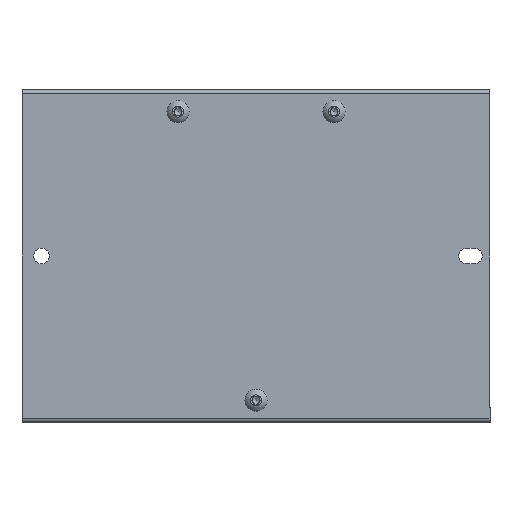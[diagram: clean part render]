
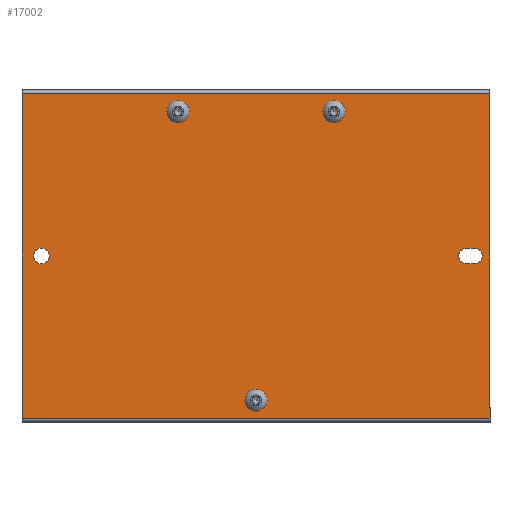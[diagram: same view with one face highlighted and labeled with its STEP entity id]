
A CAD part, front view. The second image highlights one B-rep face of the part: STEP entity #17002.
In plain terms, the highlighted planar face has unit normal (0, -1, 0).
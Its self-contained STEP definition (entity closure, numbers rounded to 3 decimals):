
#1311 = CARTESIAN_POINT ( 'NONE',  ( 360., -6.2, -25.9 ) ) ;
#1314 = CARTESIAN_POINT ( 'NONE',  ( 354., -6.2, -69.5 ) ) ;
#1532 = CARTESIAN_POINT ( 'NONE',  ( 356., -6.2, -65.5 ) ) ;
#1540 = CARTESIAN_POINT ( 'NONE',  ( 356., -6.2, -69.5 ) ) ;
#1551 = CARTESIAN_POINT ( 'NONE',  ( 360., -6.2, -109.1 ) ) ;
#1566 = CARTESIAN_POINT ( 'NONE',  ( 240., -6.2, -109.1 ) ) ;
#7375 = VERTEX_POINT ( 'NONE', #7378 ) ;
#7378 = CARTESIAN_POINT ( 'NONE',  ( 318.4, -6.2, -30.5 ) ) ;
#7389 = VERTEX_POINT ( 'NONE', #7392 ) ;
#7391 = VERTEX_POINT ( 'NONE', #7394 ) ;
#7392 = CARTESIAN_POINT ( 'NONE',  ( 278.4, -6.2, -30.5 ) ) ;
#7394 = CARTESIAN_POINT ( 'NONE',  ( 298.4, -6.2, -104.5 ) ) ;
#7397 = VERTEX_POINT ( 'NONE', #7400 ) ;
#7400 = CARTESIAN_POINT ( 'NONE',  ( 243., -6.2, -67.5 ) ) ;
#7865 = VECTOR ( 'NONE', #8823, 1000. ) ;
#7867 = VECTOR ( 'NONE', #8821, 1000. ) ;
#7892 = VECTOR ( 'NONE', #8881, 1000. ) ;
#8172 = CARTESIAN_POINT ( 'NONE',  ( 320., -6.2, -30.5 ) ) ;
#8173 = DIRECTION ( 'NONE',  ( 0., 1., 0. ) ) ;
#8174 = DIRECTION ( 'NONE',  ( -1., 0., 0. ) ) ;
#8271 = LINE ( 'NONE', #8820, #7867 ) ;
#8815 = LINE ( 'NONE', #8822, #7865 ) ;
#8820 = CARTESIAN_POINT ( 'NONE',  ( 354., -6.2, -69.5 ) ) ;
#8821 = DIRECTION ( 'NONE',  ( -1., 0., 0. ) ) ;
#8822 = CARTESIAN_POINT ( 'NONE',  ( 356., -6.2, -65.5 ) ) ;
#8823 = DIRECTION ( 'NONE',  ( 1., 0., 0. ) ) ;
#8867 = LINE ( 'NONE', #8880, #7892 ) ;
#8880 = CARTESIAN_POINT ( 'NONE',  ( 360., -6.2, -109.1 ) ) ;
#8881 = DIRECTION ( 'NONE',  ( -1., 0., 0. ) ) ;
#10598 = LINE ( 'NONE', #10600, #12773 ) ;
#10600 = CARTESIAN_POINT ( 'NONE',  ( 240., -6.2, -109.1 ) ) ;
#10601 = DIRECTION ( 'NONE',  ( 0., 0., -1. ) ) ;
#10613 = CARTESIAN_POINT ( 'NONE',  ( 280., -6.2, -30.5 ) ) ;
#10614 = DIRECTION ( 'NONE',  ( 0., 1., 0. ) ) ;
#10615 = DIRECTION ( 'NONE',  ( -1., 0., 0. ) ) ;
#10623 = LINE ( 'NONE', #10624, #12787 ) ;
#10624 = CARTESIAN_POINT ( 'NONE',  ( 360., -6.2, -109.1 ) ) ;
#10633 = DIRECTION ( 'NONE',  ( 0., 0., -1. ) ) ;
#10635 = CARTESIAN_POINT ( 'NONE',  ( 300., -6.2, -104.5 ) ) ;
#10636 = DIRECTION ( 'NONE',  ( 0., 1., 0. ) ) ;
#10637 = DIRECTION ( 'NONE',  ( -1., 0., 0. ) ) ;
#10643 = LINE ( 'NONE', #10644, #12797 ) ;
#10644 = CARTESIAN_POINT ( 'NONE',  ( 360., -6.2, -25.9 ) ) ;
#10650 = CARTESIAN_POINT ( 'NONE',  ( 356., -6.2, -67.5 ) ) ;
#10651 = DIRECTION ( 'NONE',  ( 0., 1., 0. ) ) ;
#10652 = DIRECTION ( 'NONE',  ( -1., 0., 0. ) ) ;
#10653 = DIRECTION ( 'NONE',  ( -1., 0., 0. ) ) ;
#10681 = CARTESIAN_POINT ( 'NONE',  ( 245., -6.2, -67.5 ) ) ;
#10682 = DIRECTION ( 'NONE',  ( 0., 1., 0. ) ) ;
#10683 = DIRECTION ( 'NONE',  ( -1., 0., 0. ) ) ;
#10768 = CARTESIAN_POINT ( 'NONE',  ( 354., -6.2, -67.5 ) ) ;
#10769 = DIRECTION ( 'NONE',  ( 0., 1., 0. ) ) ;
#10770 = DIRECTION ( 'NONE',  ( -1., 0., 0. ) ) ;
#12773 = VECTOR ( 'NONE', #10601, 1000. ) ;
#12779 = CIRCLE ( 'NONE', #12781, 1.6 ) ;
#12781 = AXIS2_PLACEMENT_3D ( 'NONE', #10613, #10614, #10615 ) ;
#12787 = VECTOR ( 'NONE', #10633, 1000. ) ;
#12789 = CIRCLE ( 'NONE', #12791, 1.6 ) ;
#12791 = AXIS2_PLACEMENT_3D ( 'NONE', #10635, #10636, #10637 ) ;
#12796 = CIRCLE ( 'NONE', #12798, 2. ) ;
#12797 = VECTOR ( 'NONE', #10653, 1000. ) ;
#12798 = AXIS2_PLACEMENT_3D ( 'NONE', #10650, #10651, #10652 ) ;
#12813 = CIRCLE ( 'NONE', #12815, 2. ) ;
#12815 = AXIS2_PLACEMENT_3D ( 'NONE', #10681, #10682, #10683 ) ;
#12851 = CIRCLE ( 'NONE', #12854, 2. ) ;
#12854 = AXIS2_PLACEMENT_3D ( 'NONE', #10768, #10769, #10770 ) ;
#14810 = EDGE_LOOP ( 'NONE', ( #26408 ) ) ;
#14825 = EDGE_LOOP ( 'NONE', ( #26324 ) ) ;
#14896 = EDGE_LOOP ( 'NONE', ( #25580, #26331, #26321, #26409 ) ) ;
#14904 = EDGE_LOOP ( 'NONE', ( #26406 ) ) ;
#15175 = EDGE_CURVE ( 'NONE', #7375, #7375, #29375, .T. ) ;
#15188 = EDGE_CURVE ( 'NONE', #23092, #22854, #8271, .T. ) ;
#15189 = EDGE_CURVE ( 'NONE', #22495, #23084, #8815, .T. ) ;
#15208 = EDGE_CURVE ( 'NONE', #23103, #23119, #8867, .T. ) ;
#15266 = EDGE_CURVE ( 'NONE', #22479, #23119, #10598, .T. ) ;
#15271 = EDGE_CURVE ( 'NONE', #7389, #7389, #12779, .T. ) ;
#15277 = EDGE_CURVE ( 'NONE', #22850, #23103, #10623, .T. ) ;
#15278 = EDGE_CURVE ( 'NONE', #7391, #7391, #12789, .T. ) ;
#15283 = EDGE_CURVE ( 'NONE', #23084, #23092, #12796, .T. ) ;
#15284 = EDGE_CURVE ( 'NONE', #22850, #22479, #10643, .T. ) ;
#15294 = EDGE_CURVE ( 'NONE', #7397, #7397, #12813, .T. ) ;
#15308 = EDGE_CURVE ( 'NONE', #22854, #22495, #12851, .T. ) ;
#17002 = ADVANCED_FACE ( 'NONE', ( #26930, #26932, #26934, #26936, #26929, #26931 ), #26933, .F. ) ;
#22317 = EDGE_LOOP ( 'NONE', ( #26404 ) ) ;
#22479 = VERTEX_POINT ( 'NONE', #27440 ) ;
#22495 = VERTEX_POINT ( 'NONE', #27461 ) ;
#22850 = VERTEX_POINT ( 'NONE', #1311 ) ;
#22854 = VERTEX_POINT ( 'NONE', #1314 ) ;
#22959 = EDGE_LOOP ( 'NONE', ( #26371, #26348, #26333, #26332 ) ) ;
#23084 = VERTEX_POINT ( 'NONE', #1532 ) ;
#23092 = VERTEX_POINT ( 'NONE', #1540 ) ;
#23103 = VERTEX_POINT ( 'NONE', #1551 ) ;
#23119 = VERTEX_POINT ( 'NONE', #1566 ) ;
#25580 = ORIENTED_EDGE ( 'NONE', *, *, #15284, .T. ) ;
#26321 = ORIENTED_EDGE ( 'NONE', *, *, #15208, .F. ) ;
#26324 = ORIENTED_EDGE ( 'NONE', *, *, #15278, .T. ) ;
#26331 = ORIENTED_EDGE ( 'NONE', *, *, #15266, .T. ) ;
#26332 = ORIENTED_EDGE ( 'NONE', *, *, #15189, .T. ) ;
#26333 = ORIENTED_EDGE ( 'NONE', *, *, #15308, .T. ) ;
#26348 = ORIENTED_EDGE ( 'NONE', *, *, #15188, .T. ) ;
#26371 = ORIENTED_EDGE ( 'NONE', *, *, #15283, .T. ) ;
#26404 = ORIENTED_EDGE ( 'NONE', *, *, #15175, .T. ) ;
#26406 = ORIENTED_EDGE ( 'NONE', *, *, #15294, .T. ) ;
#26408 = ORIENTED_EDGE ( 'NONE', *, *, #15271, .T. ) ;
#26409 = ORIENTED_EDGE ( 'NONE', *, *, #15277, .F. ) ;
#26929 = FACE_BOUND ( 'NONE', #14810, .T. ) ;
#26930 = FACE_BOUND ( 'NONE', #22317, .T. ) ;
#26931 = FACE_BOUND ( 'NONE', #14825, .T. ) ;
#26932 = FACE_BOUND ( 'NONE', #22959, .T. ) ;
#26933 = PLANE ( 'NONE',  #27701 ) ;
#26934 = FACE_OUTER_BOUND ( 'NONE', #14896, .T. ) ;
#26936 = FACE_BOUND ( 'NONE', #14904, .T. ) ;
#26946 = CARTESIAN_POINT ( 'NONE',  ( 360., -6.2, -109.1 ) ) ;
#26947 = DIRECTION ( 'NONE',  ( 0., 1., 0. ) ) ;
#26948 = DIRECTION ( 'NONE',  ( -1., 0., 0. ) ) ;
#27440 = CARTESIAN_POINT ( 'NONE',  ( 240., -6.2, -25.9 ) ) ;
#27461 = CARTESIAN_POINT ( 'NONE',  ( 354., -6.2, -65.5 ) ) ;
#27701 = AXIS2_PLACEMENT_3D ( 'NONE', #26946, #26947, #26948 ) ;
#29374 = AXIS2_PLACEMENT_3D ( 'NONE', #8172, #8173, #8174 ) ;
#29375 = CIRCLE ( 'NONE', #29374, 1.6 ) ;
